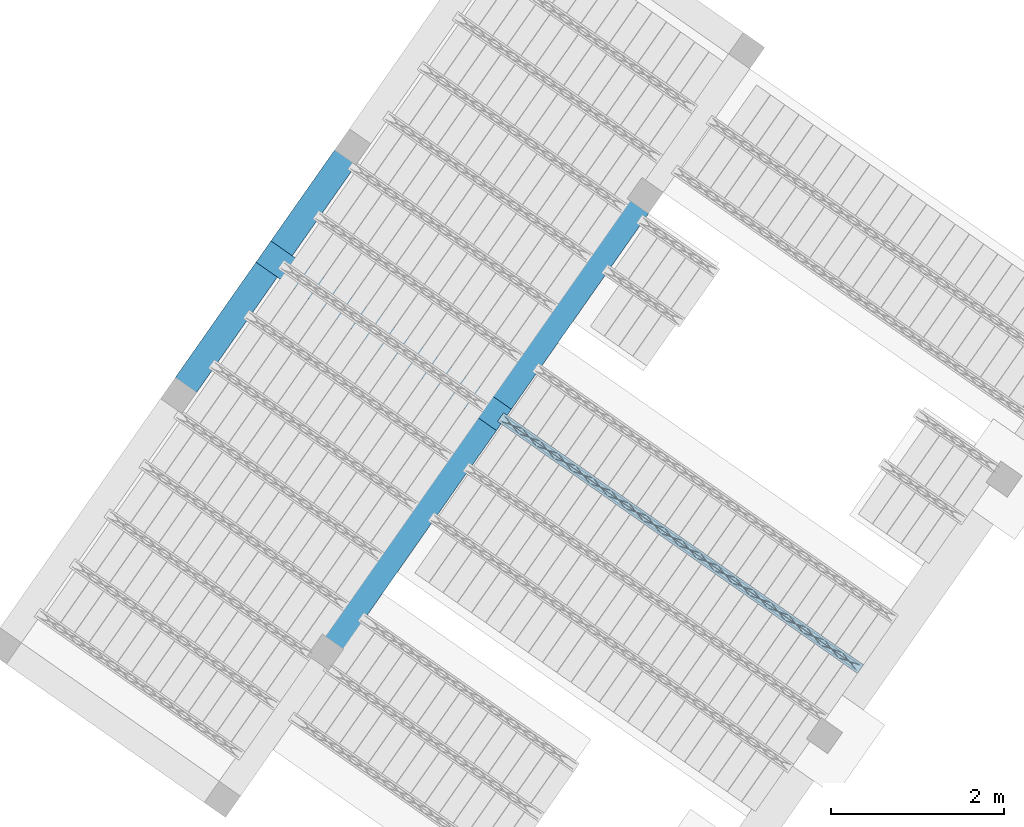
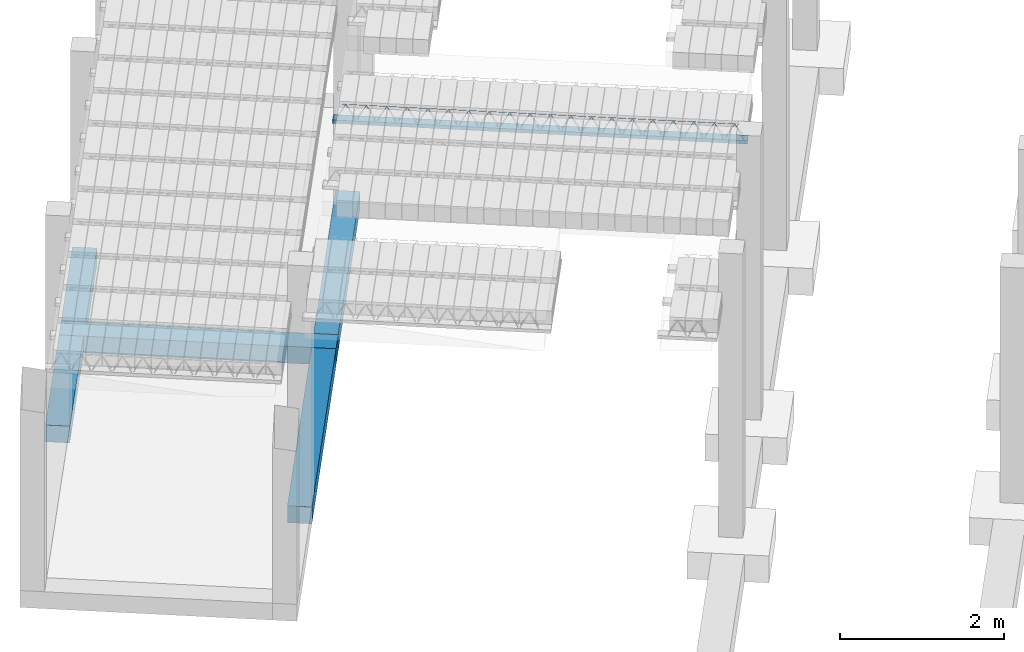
# One storey, part 27 of 80: 4 beams.
"""IFC2X3 building model written with IfcOpenShell, lengths in metres."""

from ifc_helpers import new_model, entity, si_unit, converted_unit, derived_unit, direction, frame, frame_2d, origin, origin_2d_with_axis, place, context, subcontext, project, spatial, rectangle, circle, extrude, material, type_object, element, save


model = new_model("IFC2X3")

# Units and contexts
model_context = context("Model", 3, precision=1e-05, world=origin(), true_north=direction((6.123031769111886e-17, 1.0)))
body_context = subcontext(model_context, "Body", "Model", "MODEL_VIEW")
ifc_project = project(units=[si_unit("LENGTHUNIT", "METRE"), si_unit("AREAUNIT", "SQUARE_METRE"), si_unit("VOLUMEUNIT", "CUBIC_METRE"), converted_unit("PLANEANGLEUNIT", "DEGREE", entity("IfcPlaneAngleMeasure", 0.017453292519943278), si_unit("PLANEANGLEUNIT", "RADIAN"), dimensions=[0, 0, 0, 0, 0, 0, 0]), si_unit("MASSUNIT", "GRAM", prefix="KILO"), derived_unit("MASSDENSITYUNIT", [(si_unit("MASSUNIT", "GRAM", prefix="KILO"), 1), (si_unit("LENGTHUNIT", "METRE"), -3)]), derived_unit("IONCONCENTRATIONUNIT", [(si_unit("MASSUNIT", "GRAM", prefix="KILO"), 1), (si_unit("LENGTHUNIT", "METRE"), -3)]), derived_unit("MOMENTOFINERTIAUNIT", [(si_unit("LENGTHUNIT", "METRE"), 4)]), si_unit("TIMEUNIT", "SECOND"), si_unit("FREQUENCYUNIT", "HERTZ"), si_unit("THERMODYNAMICTEMPERATUREUNIT", "DEGREE_CELSIUS"), derived_unit("THERMALTRANSMITTANCEUNIT", [(si_unit("MASSUNIT", "GRAM", prefix="KILO"), 1), (si_unit("THERMODYNAMICTEMPERATUREUNIT", "KELVIN"), -1), (si_unit("TIMEUNIT", "SECOND"), -3)]), derived_unit("THERMALCONDUCTANCEUNIT", [(si_unit("MASSUNIT", "GRAM", prefix="KILO"), 1), (si_unit("THERMODYNAMICTEMPERATUREUNIT", "KELVIN"), -1), (si_unit("TIMEUNIT", "SECOND"), -3), (si_unit("LENGTHUNIT", "METRE"), 1)]), derived_unit("VOLUMETRICFLOWRATEUNIT", [(si_unit("LENGTHUNIT", "METRE", prefix="DECI"), 3), (si_unit("TIMEUNIT", "SECOND"), -1)]), derived_unit("MASSFLOWRATEUNIT", [(si_unit("MASSUNIT", "GRAM", prefix="KILO"), 1), (si_unit("TIMEUNIT", "SECOND"), -1)]), derived_unit("ROTATIONALFREQUENCYUNIT", [(si_unit("TIMEUNIT", "SECOND"), -1)]), si_unit("ELECTRICCURRENTUNIT", "AMPERE"), si_unit("ELECTRICVOLTAGEUNIT", "VOLT"), si_unit("POWERUNIT", "WATT"), si_unit("FORCEUNIT", "NEWTON", prefix="KILO"), si_unit("ILLUMINANCEUNIT", "LUX"), si_unit("LUMINOUSFLUXUNIT", "LUMEN"), si_unit("LUMINOUSINTENSITYUNIT", "CANDELA"), si_unit("ENERGYUNIT", "JOULE"), derived_unit("USERDEFINED", [(si_unit("MASSUNIT", "GRAM", prefix="KILO"), -1), (si_unit("LENGTHUNIT", "METRE"), -2), (si_unit("TIMEUNIT", "SECOND"), 3), (si_unit("LUMINOUSFLUXUNIT", "LUMEN"), 1)]), derived_unit("USERDEFINED", [(si_unit("MASSUNIT", "GRAM", prefix="KILO"), 1), (si_unit("TIMEUNIT", "SECOND"), -3), (si_unit("LENGTHUNIT", "METRE"), 3), (si_unit("ELECTRICCURRENTUNIT", "AMPERE"), -2)]), derived_unit("SOUNDPOWERUNIT", [(si_unit("MASSUNIT", "GRAM", prefix="KILO"), 1), (si_unit("TIMEUNIT", "SECOND"), -3), (si_unit("LENGTHUNIT", "METRE"), 2)]), derived_unit("SOUNDPRESSUREUNIT", [(si_unit("MASSUNIT", "GRAM", prefix="KILO"), 1), (si_unit("LENGTHUNIT", "METRE"), -1), (si_unit("TIMEUNIT", "SECOND"), -2)]), derived_unit("LINEARVELOCITYUNIT", [(si_unit("LENGTHUNIT", "METRE"), 1), (si_unit("TIMEUNIT", "SECOND"), -1)]), si_unit("PRESSUREUNIT", "PASCAL"), derived_unit("USERDEFINED", [(si_unit("MASSUNIT", "GRAM", prefix="KILO"), 1), (si_unit("LENGTHUNIT", "METRE"), -2), (si_unit("TIMEUNIT", "SECOND"), -2)]), derived_unit("LINEARFORCEUNIT", [(si_unit("MASSUNIT", "GRAM", prefix="KILO"), 1), (si_unit("TIMEUNIT", "SECOND"), -2)]), derived_unit("PLANARFORCEUNIT", [(si_unit("MASSUNIT", "GRAM", prefix="KILO"), 1), (si_unit("LENGTHUNIT", "METRE"), -1), (si_unit("TIMEUNIT", "SECOND"), -2)]), derived_unit("SPECIFICHEATCAPACITYUNIT", [(si_unit("THERMODYNAMICTEMPERATUREUNIT", "KELVIN"), -1), (si_unit("LENGTHUNIT", "METRE"), 2), (si_unit("TIMEUNIT", "SECOND"), -2)]), derived_unit("HEATFLUXDENSITYUNIT", [(si_unit("MASSUNIT", "GRAM", prefix="KILO"), 1), (si_unit("TIMEUNIT", "SECOND"), -3)]), derived_unit("HEATINGVALUEUNIT", [(si_unit("LENGTHUNIT", "METRE"), 2), (si_unit("TIMEUNIT", "SECOND"), -2)]), derived_unit("VAPORPERMEABILITYUNIT", [(si_unit("LENGTHUNIT", "METRE"), -1), (si_unit("TIMEUNIT", "SECOND"), 1)]), derived_unit("DYNAMICVISCOSITYUNIT", [(si_unit("MASSUNIT", "GRAM", prefix="KILO"), 1), (si_unit("TIMEUNIT", "SECOND"), -1), (si_unit("LENGTHUNIT", "METRE"), -1)]), derived_unit("THERMALEXPANSIONCOEFFICIENTUNIT", [(si_unit("THERMODYNAMICTEMPERATUREUNIT", "KELVIN"), -1)]), derived_unit("MODULUSOFELASTICITYUNIT", [(si_unit("MASSUNIT", "GRAM", prefix="KILO"), 1), (si_unit("LENGTHUNIT", "METRE"), -1), (si_unit("TIMEUNIT", "SECOND"), -2)]), derived_unit("ISOTHERMALMOISTURECAPACITYUNIT", [(si_unit("MASSUNIT", "GRAM", prefix="KILO"), -1), (si_unit("LENGTHUNIT", "METRE"), 3)]), derived_unit("MOISTUREDIFFUSIVITYUNIT", [(si_unit("TIMEUNIT", "SECOND"), -1), (si_unit("LENGTHUNIT", "METRE"), 2)]), derived_unit("MASSPERLENGTHUNIT", [(si_unit("MASSUNIT", "GRAM", prefix="KILO"), 1), (si_unit("LENGTHUNIT", "METRE"), -1)]), derived_unit("THERMALRESISTANCEUNIT", [(si_unit("MASSUNIT", "GRAM", prefix="KILO"), -1), (si_unit("TIMEUNIT", "SECOND"), 3), (si_unit("THERMODYNAMICTEMPERATUREUNIT", "KELVIN"), 1)]), derived_unit("ACCELERATIONUNIT", [(si_unit("LENGTHUNIT", "METRE"), 1), (si_unit("TIMEUNIT", "SECOND"), -2)]), derived_unit("ANGULARVELOCITYUNIT", [(si_unit("TIMEUNIT", "SECOND"), -1), (si_unit("PLANEANGLEUNIT", "RADIAN"), 1)]), derived_unit("LINEARSTIFFNESSUNIT", [(si_unit("MASSUNIT", "GRAM", prefix="KILO"), 1), (si_unit("TIMEUNIT", "SECOND"), -2)]), derived_unit("WARPINGCONSTANTUNIT", [(si_unit("LENGTHUNIT", "METRE"), 6)]), derived_unit("LINEARMOMENTUNIT", [(si_unit("MASSUNIT", "GRAM", prefix="KILO"), 1), (si_unit("LENGTHUNIT", "METRE"), 1), (si_unit("TIMEUNIT", "SECOND"), -2)]), derived_unit("TORQUEUNIT", [(si_unit("MASSUNIT", "GRAM", prefix="KILO"), 1), (si_unit("LENGTHUNIT", "METRE"), 2), (si_unit("TIMEUNIT", "SECOND"), -2)])], contexts=[model_context])

# Site, building, storey
site_placement = place(None, origin())
site = spatial("IfcSite", under=ifc_project, at=site_placement, Name="Default", CompositionType="ELEMENT")
building_placement = place(site_placement, origin())
building = spatial("IfcBuilding", under=site, at=building_placement, CompositionType="ELEMENT")
storey_placement = place(building_placement, frame((0.0, 0.0, 95.94)))
storey = spatial("IfcBuildingStorey", under=building, at=storey_placement, Name="PB", CompositionType="ELEMENT", Elevation=95.94)

# Beams
beam_type = type_object("IfcBeamType", Name="Vigueta 3 (Paño 6) (Mf = 33.48)", PredefinedType="JOIST")
beam_1_placement = place(storey_placement, origin())
element("IfcBeam", 1, at=beam_1_placement, inside=storey, type_object=beam_type, Name="Vigueta 3 (Paño 6) (Mf = 33.48)", ObjectType="Mf = 33.48", context=body_context, shape_type="SweptSolid", body=[
    extrude(rectangle(XDim=5.065554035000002, YDim=0.11999999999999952, at=frame_2d((-2.220446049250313e-16, -6.106226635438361e-16), x_axis=(1.0, 0.0))), frame((6.237630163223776, 3.518912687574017, 3.2799999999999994), z_axis=(0.0, 0.0, 1.0), x_axis=(0.8191520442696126, -0.5735764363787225, 0.0)), (0.0, 0.0, 1.0), 0.04999999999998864),
    extrude(circle(Radius=0.0025, at=origin_2d_with_axis()), frame((4.161911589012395, 4.928398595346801, 3.3049999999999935), z_axis=(0.8191520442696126, -0.5735764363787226, 0.0), x_axis=(-0.5735764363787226, -0.8191520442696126, 0.0)), (0.0, 0.0, 1.0), 5.017554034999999),
    extrude(circle(Radius=0.0025, at=origin_2d_with_axis()), frame((8.224073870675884, 2.1279898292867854, 3.5299999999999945), z_axis=(-0.8191520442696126, 0.5735764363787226, 0.0), x_axis=(-0.5735764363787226, -0.8191520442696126, 0.0)), (0.0, 0.0, 1.0), 4.849999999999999),
    extrude(circle(Radius=0.0025, at=origin_2d_with_axis()), frame((8.264861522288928, 2.0554821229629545, 3.3049999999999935), z_axis=(-0.3145304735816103, 0.389334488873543, 0.8657304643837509), x_axis=(-0.7778747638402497, -0.6284193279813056, 0.0)), (0.0, 0.0, 1.0), 0.2598961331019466),
    extrude(circle(Radius=0.0025, at=origin_2d_with_axis()), frame((8.060073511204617, 2.198876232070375, 3.3049999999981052), z_axis=(0.47343050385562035, -0.1624017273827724, 0.8657304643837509), x_axis=(-0.3244721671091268, -0.9458952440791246, 0.0)), (0.0, 0.0, 1.0), 0.25989613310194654),
    extrude(circle(Radius=0.0025, at=origin_2d_with_axis()), frame((8.060073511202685, 2.1988762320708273, 3.3049999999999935), z_axis=(-0.3145304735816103, 0.389334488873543, 0.8657304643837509), x_axis=(-0.7778747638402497, -0.6284193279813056, 0.0)), (0.0, 0.0, 1.0), 0.2598961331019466),
    extrude(circle(Radius=0.0025, at=origin_2d_with_axis()), frame((7.855285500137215, 2.342270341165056, 3.3049999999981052), z_axis=(0.47343050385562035, -0.1624017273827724, 0.8657304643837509), x_axis=(-0.3244721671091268, -0.9458952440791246, 0.0)), (0.0, 0.0, 1.0), 0.25989613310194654),
    extrude(circle(Radius=0.0025, at=origin_2d_with_axis()), frame((7.855285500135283, 2.342270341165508, 3.3049999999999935), z_axis=(-0.3145304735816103, 0.389334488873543, 0.8657304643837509), x_axis=(-0.7778747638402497, -0.6284193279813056, 0.0)), (0.0, 0.0, 1.0), 0.2598961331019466),
    extrude(circle(Radius=0.0025, at=origin_2d_with_axis()), frame((7.650497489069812, 2.485664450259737, 3.3049999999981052), z_axis=(0.47343050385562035, -0.1624017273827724, 0.8657304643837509), x_axis=(-0.3244721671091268, -0.9458952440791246, 0.0)), (0.0, 0.0, 1.0), 0.25989613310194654),
    extrude(circle(Radius=0.0025, at=origin_2d_with_axis()), frame((7.650497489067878, 2.4856644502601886, 3.3049999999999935), z_axis=(-0.3145304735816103, 0.389334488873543, 0.8657304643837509), x_axis=(-0.7778747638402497, -0.6284193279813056, 0.0)), (0.0, 0.0, 1.0), 0.2598961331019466),
    extrude(circle(Radius=0.0025, at=origin_2d_with_axis()), frame((7.445709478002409, 2.6290585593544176, 3.3049999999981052), z_axis=(0.47343050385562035, -0.1624017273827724, 0.8657304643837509), x_axis=(-0.3244721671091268, -0.9458952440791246, 0.0)), (0.0, 0.0, 1.0), 0.25989613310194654),
    extrude(circle(Radius=0.0025, at=origin_2d_with_axis()), frame((7.445709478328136, 2.629058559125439, 3.3049999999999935), z_axis=(-0.3145304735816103, 0.389334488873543, 0.8657304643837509), x_axis=(-0.7778747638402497, -0.6284193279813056, 0.0)), (0.0, 0.0, 1.0), 0.2598961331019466),
    extrude(circle(Radius=0.0025, at=origin_2d_with_axis()), frame((7.240921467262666, 2.7724526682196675, 3.3049999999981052), z_axis=(0.47343050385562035, -0.1624017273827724, 0.8657304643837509), x_axis=(-0.3244721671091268, -0.9458952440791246, 0.0)), (0.0, 0.0, 1.0), 0.25989613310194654),
    extrude(circle(Radius=0.0025, at=origin_2d_with_axis()), frame((7.240921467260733, 2.772452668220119, 3.3049999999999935), z_axis=(-0.3145304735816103, 0.389334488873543, 0.8657304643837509), x_axis=(-0.7778747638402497, -0.6284193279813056, 0.0)), (0.0, 0.0, 1.0), 0.2598961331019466),
    extrude(circle(Radius=0.0025, at=origin_2d_with_axis()), frame((7.036133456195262, 2.915846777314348, 3.3049999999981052), z_axis=(0.47343050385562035, -0.1624017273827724, 0.8657304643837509), x_axis=(-0.3244721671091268, -0.9458952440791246, 0.0)), (0.0, 0.0, 1.0), 0.25989613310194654),
    extrude(circle(Radius=0.0025, at=origin_2d_with_axis()), frame((7.036133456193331, 2.9158467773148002, 3.3049999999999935), z_axis=(-0.3145304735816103, 0.389334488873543, 0.8657304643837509), x_axis=(-0.7778747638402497, -0.6284193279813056, 0.0)), (0.0, 0.0, 1.0), 0.2598961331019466),
    extrude(circle(Radius=0.0025, at=origin_2d_with_axis()), frame((6.83134544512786, 3.059240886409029, 3.3049999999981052), z_axis=(0.47343050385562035, -0.1624017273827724, 0.8657304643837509), x_axis=(-0.3244721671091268, -0.9458952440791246, 0.0)), (0.0, 0.0, 1.0), 0.25989613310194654),
    extrude(circle(Radius=0.0025, at=origin_2d_with_axis()), frame((6.831345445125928, 3.059240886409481, 3.3049999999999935), z_axis=(-0.3145304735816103, 0.389334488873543, 0.8657304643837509), x_axis=(-0.7778747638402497, -0.6284193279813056, 0.0)), (0.0, 0.0, 1.0), 0.2598961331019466),
    extrude(circle(Radius=0.0025, at=origin_2d_with_axis()), frame((6.626557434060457, 3.2026349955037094, 3.3049999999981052), z_axis=(0.47343050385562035, -0.1624017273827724, 0.8657304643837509), x_axis=(-0.3244721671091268, -0.9458952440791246, 0.0)), (0.0, 0.0, 1.0), 0.25989613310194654),
    extrude(circle(Radius=0.0025, at=origin_2d_with_axis()), frame((6.626557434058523, 3.202634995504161, 3.3049999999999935), z_axis=(-0.3145304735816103, 0.389334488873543, 0.8657304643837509), x_axis=(-0.7778747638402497, -0.6284193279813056, 0.0)), (0.0, 0.0, 1.0), 0.2598961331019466),
    extrude(circle(Radius=0.0025, at=origin_2d_with_axis()), frame((6.421769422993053, 3.34602910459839, 3.3049999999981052), z_axis=(0.47343050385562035, -0.1624017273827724, 0.8657304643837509), x_axis=(-0.3244721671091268, -0.9458952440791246, 0.0)), (0.0, 0.0, 1.0), 0.25989613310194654),
    extrude(circle(Radius=0.0025, at=origin_2d_with_axis()), frame((6.421769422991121, 3.3460291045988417, 3.3049999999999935), z_axis=(-0.3145304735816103, 0.389334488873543, 0.8657304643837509), x_axis=(-0.7778747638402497, -0.6284193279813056, 0.0)), (0.0, 0.0, 1.0), 0.2598961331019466),
    extrude(circle(Radius=0.0025, at=origin_2d_with_axis()), frame((6.216981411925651, 3.4894232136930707, 3.3049999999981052), z_axis=(0.47343050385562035, -0.1624017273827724, 0.8657304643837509), x_axis=(-0.3244721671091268, -0.9458952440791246, 0.0)), (0.0, 0.0, 1.0), 0.25989613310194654),
    extrude(circle(Radius=0.0025, at=origin_2d_with_axis()), frame((6.216981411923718, 3.4894232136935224, 3.3049999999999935), z_axis=(-0.3145304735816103, 0.389334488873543, 0.8657304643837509), x_axis=(-0.7778747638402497, -0.6284193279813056, 0.0)), (0.0, 0.0, 1.0), 0.2598961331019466),
    extrude(circle(Radius=0.0025, at=origin_2d_with_axis()), frame((6.012193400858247, 3.632817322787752, 3.3049999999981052), z_axis=(0.47343050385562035, -0.1624017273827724, 0.8657304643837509), x_axis=(-0.3244721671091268, -0.9458952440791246, 0.0)), (0.0, 0.0, 1.0), 0.25989613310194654),
    extrude(circle(Radius=0.0025, at=origin_2d_with_axis()), frame((6.012193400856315, 3.632817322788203, 3.3049999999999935), z_axis=(-0.3145304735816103, 0.389334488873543, 0.8657304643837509), x_axis=(-0.7778747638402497, -0.6284193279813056, 0.0)), (0.0, 0.0, 1.0), 0.2598961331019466),
    extrude(circle(Radius=0.0025, at=origin_2d_with_axis()), frame((5.807405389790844, 3.776211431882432, 3.3049999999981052), z_axis=(0.47343050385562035, -0.1624017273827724, 0.8657304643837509), x_axis=(-0.3244721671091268, -0.9458952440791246, 0.0)), (0.0, 0.0, 1.0), 0.25989613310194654),
    extrude(circle(Radius=0.0025, at=origin_2d_with_axis()), frame((5.807405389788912, 3.7762114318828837, 3.3049999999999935), z_axis=(-0.3145304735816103, 0.389334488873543, 0.8657304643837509), x_axis=(-0.7778747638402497, -0.6284193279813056, 0.0)), (0.0, 0.0, 1.0), 0.2598961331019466),
    extrude(circle(Radius=0.0025, at=origin_2d_with_axis()), frame((5.6026173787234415, 3.9196055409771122, 3.3049999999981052), z_axis=(0.47343050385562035, -0.1624017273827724, 0.8657304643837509), x_axis=(-0.3244721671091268, -0.9458952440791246, 0.0)), (0.0, 0.0, 1.0), 0.25989613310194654),
    extrude(circle(Radius=0.0025, at=origin_2d_with_axis()), frame((5.602617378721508, 3.919605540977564, 3.3049999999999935), z_axis=(-0.3145304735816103, 0.389334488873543, 0.8657304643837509), x_axis=(-0.7778747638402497, -0.6284193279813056, 0.0)), (0.0, 0.0, 1.0), 0.2598961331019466),
    extrude(circle(Radius=0.0025, at=origin_2d_with_axis()), frame((5.397829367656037, 4.062999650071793, 3.3049999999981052), z_axis=(0.47343050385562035, -0.1624017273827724, 0.8657304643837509), x_axis=(-0.3244721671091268, -0.9458952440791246, 0.0)), (0.0, 0.0, 1.0), 0.25989613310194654),
    extrude(circle(Radius=0.0025, at=origin_2d_with_axis()), frame((5.397829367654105, 4.062999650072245, 3.3049999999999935), z_axis=(-0.3145304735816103, 0.389334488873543, 0.8657304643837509), x_axis=(-0.7778747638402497, -0.6284193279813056, 0.0)), (0.0, 0.0, 1.0), 0.2598961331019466),
    extrude(circle(Radius=0.0025, at=origin_2d_with_axis()), frame((5.193041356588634, 4.206393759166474, 3.3049999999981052), z_axis=(0.47343050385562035, -0.1624017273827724, 0.8657304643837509), x_axis=(-0.3244721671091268, -0.9458952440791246, 0.0)), (0.0, 0.0, 1.0), 0.25989613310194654),
    extrude(circle(Radius=0.0025, at=origin_2d_with_axis()), frame((5.193041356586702, 4.206393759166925, 3.3049999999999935), z_axis=(-0.3145304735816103, 0.389334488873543, 0.8657304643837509), x_axis=(-0.7778747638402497, -0.6284193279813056, 0.0)), (0.0, 0.0, 1.0), 0.2598961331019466),
    extrude(circle(Radius=0.0025, at=origin_2d_with_axis()), frame((4.9882533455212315, 4.349787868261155, 3.3049999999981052), z_axis=(0.47343050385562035, -0.1624017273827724, 0.8657304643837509), x_axis=(-0.3244721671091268, -0.9458952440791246, 0.0)), (0.0, 0.0, 1.0), 0.25989613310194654),
    extrude(circle(Radius=0.0025, at=origin_2d_with_axis()), frame((4.988253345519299, 4.349787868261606, 3.3049999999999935), z_axis=(-0.3145304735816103, 0.389334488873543, 0.8657304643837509), x_axis=(-0.7778747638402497, -0.6284193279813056, 0.0)), (0.0, 0.0, 1.0), 0.2598961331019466),
    extrude(circle(Radius=0.0025, at=origin_2d_with_axis()), frame((4.783465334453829, 4.493181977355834, 3.3049999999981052), z_axis=(0.47343050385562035, -0.1624017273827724, 0.8657304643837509), x_axis=(-0.3244721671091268, -0.9458952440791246, 0.0)), (0.0, 0.0, 1.0), 0.25989613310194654),
    extrude(circle(Radius=0.0025, at=origin_2d_with_axis()), frame((4.783465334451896, 4.493181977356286, 3.3049999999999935), z_axis=(-0.3145304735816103, 0.389334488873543, 0.8657304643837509), x_axis=(-0.7778747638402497, -0.6284193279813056, 0.0)), (0.0, 0.0, 1.0), 0.2598961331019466),
    extrude(circle(Radius=0.0025, at=origin_2d_with_axis()), frame((4.578677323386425, 4.636576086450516, 3.3049999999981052), z_axis=(0.47343050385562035, -0.1624017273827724, 0.8657304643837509), x_axis=(-0.3244721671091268, -0.9458952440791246, 0.0)), (0.0, 0.0, 1.0), 0.25989613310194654),
    extrude(circle(Radius=0.0025, at=origin_2d_with_axis()), frame((4.578677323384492, 4.636576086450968, 3.3049999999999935), z_axis=(-0.3145304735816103, 0.389334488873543, 0.8657304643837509), x_axis=(-0.7778747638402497, -0.6284193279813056, 0.0)), (0.0, 0.0, 1.0), 0.2598961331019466),
    extrude(circle(Radius=0.0025, at=origin_2d_with_axis()), frame((4.373889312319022, 4.7799701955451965, 3.3049999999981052), z_axis=(0.47343050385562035, -0.1624017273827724, 0.8657304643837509), x_axis=(-0.3244721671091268, -0.9458952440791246, 0.0)), (0.0, 0.0, 1.0), 0.25989613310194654),
    extrude(circle(Radius=0.0025, at=origin_2d_with_axis()), frame((4.37388931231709, 4.779970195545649, 3.3049999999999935), z_axis=(-0.3145304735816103, 0.389334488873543, 0.8657304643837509), x_axis=(-0.7778747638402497, -0.6284193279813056, 0.0)), (0.0, 0.0, 1.0), 0.2598961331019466),
    extrude(circle(Radius=0.0025, at=origin_2d_with_axis()), frame((4.169101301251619, 4.923364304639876, 3.3049999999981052), z_axis=(0.47343050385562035, -0.1624017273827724, 0.8657304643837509), x_axis=(-0.3244721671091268, -0.9458952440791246, 0.0)), (0.0, 0.0, 1.0), 0.25989613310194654),
    extrude(circle(Radius=0.0025, at=origin_2d_with_axis()), frame((8.313348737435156, 2.109426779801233, 3.3049999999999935), z_axis=(-0.8191520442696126, 0.5735764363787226, 0.0), x_axis=(-0.5735764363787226, -0.8191520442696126, 0.0)), (0.0, 0.0, 1.0), 5.017554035),
    extrude(circle(Radius=0.0025, at=origin_2d_with_axis()), frame((8.306159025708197, 2.1144610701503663, 3.3049999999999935), z_axis=(-0.47343050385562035, 0.1624017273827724, 0.8657304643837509), x_axis=(-0.3244721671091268, -0.9458952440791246, 0.0)), (0.0, 0.0, 1.0), 0.25989613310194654),
    extrude(circle(Radius=0.0025, at=origin_2d_with_axis()), frame((8.101371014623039, 2.2578551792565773, 3.3049999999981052), z_axis=(0.3145304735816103, -0.389334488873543, 0.8657304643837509), x_axis=(-0.7778747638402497, -0.6284193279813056, 0.0)), (0.0, 0.0, 1.0), 0.2598961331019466),
    extrude(circle(Radius=0.0025, at=origin_2d_with_axis()), frame((8.101371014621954, 2.2578551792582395, 3.3049999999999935), z_axis=(-0.47343050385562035, 0.1624017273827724, 0.8657304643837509), x_axis=(-0.3244721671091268, -0.9458952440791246, 0.0)), (0.0, 0.0, 1.0), 0.25989613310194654),
    extrude(circle(Radius=0.0025, at=origin_2d_with_axis()), frame((7.8965830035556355, 2.4012492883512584, 3.3049999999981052), z_axis=(0.3145304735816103, -0.389334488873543, 0.8657304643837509), x_axis=(-0.7778747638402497, -0.6284193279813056, 0.0)), (0.0, 0.0, 1.0), 0.2598961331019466),
    extrude(circle(Radius=0.0025, at=origin_2d_with_axis()), frame((7.89658300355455, 2.40124928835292, 3.3049999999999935), z_axis=(-0.47343050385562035, 0.1624017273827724, 0.8657304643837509), x_axis=(-0.3244721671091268, -0.9458952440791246, 0.0)), (0.0, 0.0, 1.0), 0.25989613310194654),
    extrude(circle(Radius=0.0025, at=origin_2d_with_axis()), frame((7.691794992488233, 2.5446433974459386, 3.3049999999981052), z_axis=(0.3145304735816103, -0.389334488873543, 0.8657304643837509), x_axis=(-0.7778747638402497, -0.6284193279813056, 0.0)), (0.0, 0.0, 1.0), 0.2598961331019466),
    extrude(circle(Radius=0.0025, at=origin_2d_with_axis()), frame((7.6917949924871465, 2.544643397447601, 3.3049999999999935), z_axis=(-0.47343050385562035, 0.1624017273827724, 0.8657304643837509), x_axis=(-0.3244721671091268, -0.9458952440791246, 0.0)), (0.0, 0.0, 1.0), 0.25989613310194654),
    extrude(circle(Radius=0.0025, at=origin_2d_with_axis()), frame((7.48700698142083, 2.6880375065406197, 3.3049999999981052), z_axis=(0.3145304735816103, -0.389334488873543, 0.8657304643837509), x_axis=(-0.7778747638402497, -0.6284193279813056, 0.0)), (0.0, 0.0, 1.0), 0.2598961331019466),
    extrude(circle(Radius=0.0025, at=origin_2d_with_axis()), frame((7.487006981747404, 2.6880375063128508, 3.3049999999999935), z_axis=(-0.47343050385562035, 0.1624017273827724, 0.8657304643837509), x_axis=(-0.3244721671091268, -0.9458952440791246, 0.0)), (0.0, 0.0, 1.0), 0.25989613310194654),
    extrude(circle(Radius=0.0025, at=origin_2d_with_axis()), frame((7.282218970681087, 2.8314316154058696, 3.3049999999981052), z_axis=(0.3145304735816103, -0.389334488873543, 0.8657304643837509), x_axis=(-0.7778747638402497, -0.6284193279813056, 0.0)), (0.0, 0.0, 1.0), 0.2598961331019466),
    extrude(circle(Radius=0.0025, at=origin_2d_with_axis()), frame((7.282218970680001, 2.831431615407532, 3.3049999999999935), z_axis=(-0.47343050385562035, 0.1624017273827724, 0.8657304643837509), x_axis=(-0.3244721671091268, -0.9458952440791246, 0.0)), (0.0, 0.0, 1.0), 0.25989613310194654),
    extrude(circle(Radius=0.0025, at=origin_2d_with_axis()), frame((7.077430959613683, 2.97482572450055, 3.3049999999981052), z_axis=(0.3145304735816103, -0.389334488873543, 0.8657304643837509), x_axis=(-0.7778747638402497, -0.6284193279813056, 0.0)), (0.0, 0.0, 1.0), 0.2598961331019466),
    extrude(circle(Radius=0.0025, at=origin_2d_with_axis()), frame((7.077430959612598, 2.974825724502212, 3.3049999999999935), z_axis=(-0.47343050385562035, 0.1624017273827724, 0.8657304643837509), x_axis=(-0.3244721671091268, -0.9458952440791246, 0.0)), (0.0, 0.0, 1.0), 0.25989613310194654),
    extrude(circle(Radius=0.0025, at=origin_2d_with_axis()), frame((6.8726429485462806, 3.1182198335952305, 3.3049999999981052), z_axis=(0.3145304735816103, -0.389334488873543, 0.8657304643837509), x_axis=(-0.7778747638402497, -0.6284193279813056, 0.0)), (0.0, 0.0, 1.0), 0.2598961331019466),
    extrude(circle(Radius=0.0025, at=origin_2d_with_axis()), frame((6.872642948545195, 3.1182198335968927, 3.3049999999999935), z_axis=(-0.47343050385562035, 0.1624017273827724, 0.8657304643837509), x_axis=(-0.3244721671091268, -0.9458952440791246, 0.0)), (0.0, 0.0, 1.0), 0.25989613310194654),
    extrude(circle(Radius=0.0025, at=origin_2d_with_axis()), frame((6.667854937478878, 3.2616139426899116, 3.3049999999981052), z_axis=(0.3145304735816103, -0.389334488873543, 0.8657304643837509), x_axis=(-0.7778747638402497, -0.6284193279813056, 0.0)), (0.0, 0.0, 1.0), 0.2598961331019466),
    extrude(circle(Radius=0.0025, at=origin_2d_with_axis()), frame((6.667854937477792, 3.2616139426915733, 3.3049999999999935), z_axis=(-0.47343050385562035, 0.1624017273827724, 0.8657304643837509), x_axis=(-0.3244721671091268, -0.9458952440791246, 0.0)), (0.0, 0.0, 1.0), 0.25989613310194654),
    extrude(circle(Radius=0.0025, at=origin_2d_with_axis()), frame((6.463066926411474, 3.4050080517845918, 3.3049999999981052), z_axis=(0.3145304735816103, -0.389334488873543, 0.8657304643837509), x_axis=(-0.7778747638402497, -0.6284193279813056, 0.0)), (0.0, 0.0, 1.0), 0.2598961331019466),
    extrude(circle(Radius=0.0025, at=origin_2d_with_axis()), frame((6.463066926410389, 3.405008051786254, 3.3049999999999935), z_axis=(-0.47343050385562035, 0.1624017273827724, 0.8657304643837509), x_axis=(-0.3244721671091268, -0.9458952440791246, 0.0)), (0.0, 0.0, 1.0), 0.25989613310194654),
    extrude(circle(Radius=0.0025, at=origin_2d_with_axis()), frame((6.258278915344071, 3.548402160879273, 3.3049999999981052), z_axis=(0.3145304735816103, -0.389334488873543, 0.8657304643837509), x_axis=(-0.7778747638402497, -0.6284193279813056, 0.0)), (0.0, 0.0, 1.0), 0.2598961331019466),
    extrude(circle(Radius=0.0025, at=origin_2d_with_axis()), frame((6.258278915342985, 3.548402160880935, 3.3049999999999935), z_axis=(-0.47343050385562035, 0.1624017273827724, 0.8657304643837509), x_axis=(-0.3244721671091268, -0.9458952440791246, 0.0)), (0.0, 0.0, 1.0), 0.25989613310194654),
    extrude(circle(Radius=0.0025, at=origin_2d_with_axis()), frame((6.053490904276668, 3.6917962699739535, 3.3049999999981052), z_axis=(0.3145304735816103, -0.389334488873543, 0.8657304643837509), x_axis=(-0.7778747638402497, -0.6284193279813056, 0.0)), (0.0, 0.0, 1.0), 0.2598961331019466),
    extrude(circle(Radius=0.0025, at=origin_2d_with_axis()), frame((6.0534909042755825, 3.6917962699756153, 3.3049999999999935), z_axis=(-0.47343050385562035, 0.1624017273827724, 0.8657304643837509), x_axis=(-0.3244721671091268, -0.9458952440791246, 0.0)), (0.0, 0.0, 1.0), 0.25989613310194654),
    extrude(circle(Radius=0.0025, at=origin_2d_with_axis()), frame((5.848702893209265, 3.8351903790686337, 3.3049999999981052), z_axis=(0.3145304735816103, -0.389334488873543, 0.8657304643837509), x_axis=(-0.7778747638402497, -0.6284193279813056, 0.0)), (0.0, 0.0, 1.0), 0.2598961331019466),
    extrude(circle(Radius=0.0025, at=origin_2d_with_axis()), frame((5.84870289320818, 3.8351903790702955, 3.3049999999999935), z_axis=(-0.47343050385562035, 0.1624017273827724, 0.8657304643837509), x_axis=(-0.3244721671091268, -0.9458952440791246, 0.0)), (0.0, 0.0, 1.0), 0.25989613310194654),
    extrude(circle(Radius=0.0025, at=origin_2d_with_axis()), frame((5.643914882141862, 3.9785844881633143, 3.3049999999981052), z_axis=(0.3145304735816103, -0.389334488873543, 0.8657304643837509), x_axis=(-0.7778747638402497, -0.6284193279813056, 0.0)), (0.0, 0.0, 1.0), 0.2598961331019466),
    extrude(circle(Radius=0.0025, at=origin_2d_with_axis()), frame((5.643914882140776, 3.978584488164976, 3.3049999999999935), z_axis=(-0.47343050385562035, 0.1624017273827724, 0.8657304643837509), x_axis=(-0.3244721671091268, -0.9458952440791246, 0.0)), (0.0, 0.0, 1.0), 0.25989613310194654),
    extrude(circle(Radius=0.0025, at=origin_2d_with_axis()), frame((5.439126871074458, 4.121978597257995, 3.3049999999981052), z_axis=(0.3145304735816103, -0.389334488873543, 0.8657304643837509), x_axis=(-0.7778747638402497, -0.6284193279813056, 0.0)), (0.0, 0.0, 1.0), 0.2598961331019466),
    extrude(circle(Radius=0.0025, at=origin_2d_with_axis()), frame((5.439126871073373, 4.121978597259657, 3.3049999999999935), z_axis=(-0.47343050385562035, 0.1624017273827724, 0.8657304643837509), x_axis=(-0.3244721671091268, -0.9458952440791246, 0.0)), (0.0, 0.0, 1.0), 0.25989613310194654),
    extrude(circle(Radius=0.0025, at=origin_2d_with_axis()), frame((5.234338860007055, 4.265372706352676, 3.3049999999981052), z_axis=(0.3145304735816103, -0.389334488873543, 0.8657304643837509), x_axis=(-0.7778747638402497, -0.6284193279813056, 0.0)), (0.0, 0.0, 1.0), 0.2598961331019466),
    extrude(circle(Radius=0.0025, at=origin_2d_with_axis()), frame((5.23433886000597, 4.265372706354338, 3.3049999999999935), z_axis=(-0.47343050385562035, 0.1624017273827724, 0.8657304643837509), x_axis=(-0.3244721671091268, -0.9458952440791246, 0.0)), (0.0, 0.0, 1.0), 0.25989613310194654),
    extrude(circle(Radius=0.0025, at=origin_2d_with_axis()), frame((5.029550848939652, 4.408766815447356, 3.3049999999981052), z_axis=(0.3145304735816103, -0.389334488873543, 0.8657304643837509), x_axis=(-0.7778747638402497, -0.6284193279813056, 0.0)), (0.0, 0.0, 1.0), 0.2598961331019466),
    extrude(circle(Radius=0.0025, at=origin_2d_with_axis()), frame((5.029550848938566, 4.4087668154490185, 3.3049999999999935), z_axis=(-0.47343050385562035, 0.1624017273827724, 0.8657304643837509), x_axis=(-0.3244721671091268, -0.9458952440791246, 0.0)), (0.0, 0.0, 1.0), 0.25989613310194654),
    extrude(circle(Radius=0.0025, at=origin_2d_with_axis()), frame((4.82476283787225, 4.5521609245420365, 3.3049999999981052), z_axis=(0.3145304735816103, -0.389334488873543, 0.8657304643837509), x_axis=(-0.7778747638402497, -0.6284193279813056, 0.0)), (0.0, 0.0, 1.0), 0.2598961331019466),
    extrude(circle(Radius=0.0025, at=origin_2d_with_axis()), frame((4.824762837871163, 4.552160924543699, 3.3049999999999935), z_axis=(-0.47343050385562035, 0.1624017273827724, 0.8657304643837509), x_axis=(-0.3244721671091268, -0.9458952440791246, 0.0)), (0.0, 0.0, 1.0), 0.25989613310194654),
    extrude(circle(Radius=0.0025, at=origin_2d_with_axis()), frame((4.619974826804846, 4.695555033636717, 3.3049999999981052), z_axis=(0.3145304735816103, -0.389334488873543, 0.8657304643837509), x_axis=(-0.7778747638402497, -0.6284193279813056, 0.0)), (0.0, 0.0, 1.0), 0.2598961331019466),
    extrude(circle(Radius=0.0025, at=origin_2d_with_axis()), frame((4.619974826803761, 4.69555503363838, 3.3049999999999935), z_axis=(-0.47343050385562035, 0.1624017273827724, 0.8657304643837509), x_axis=(-0.3244721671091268, -0.9458952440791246, 0.0)), (0.0, 0.0, 1.0), 0.25989613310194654),
    extrude(circle(Radius=0.0025, at=origin_2d_with_axis()), frame((4.415186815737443, 4.838949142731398, 3.3049999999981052), z_axis=(0.3145304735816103, -0.389334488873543, 0.8657304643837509), x_axis=(-0.7778747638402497, -0.6284193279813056, 0.0)), (0.0, 0.0, 1.0), 0.2598961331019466),
    extrude(circle(Radius=0.0025, at=origin_2d_with_axis()), frame((4.415186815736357, 4.838949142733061, 3.3049999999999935), z_axis=(-0.47343050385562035, 0.1624017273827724, 0.8657304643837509), x_axis=(-0.3244721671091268, -0.9458952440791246, 0.0)), (0.0, 0.0, 1.0), 0.25989613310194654),
    extrude(circle(Radius=0.0025, at=origin_2d_with_axis()), frame((4.21039880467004, 4.982343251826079, 3.3049999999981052), z_axis=(0.3145304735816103, -0.389334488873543, 0.8657304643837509), x_axis=(-0.7778747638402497, -0.6284193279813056, 0.0)), (0.0, 0.0, 1.0), 0.2598961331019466),
])
ifc_material = material(Name="Hormigón armado")
beam_2_placement = place(storey_placement, origin())
element("IfcBeam", 2, at=beam_2_placement, inside=storey, material=ifc_material, Name="Viga 3 (30x25)", ObjectType="30x25", context=body_context, shape_type="SweptSolid", body=[
    extrude(rectangle(XDim=0.2500000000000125, YDim=0.2999999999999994, at=frame_2d((0.0, 4.163336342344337e-17), x_axis=(1.0, 0.0))), frame((0.36519983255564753, 5.099891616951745, -0.12500000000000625), z_axis=(0.5735764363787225, 0.8191520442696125, 0.0), x_axis=(0.0, 0.0, 1.0)), (0.0, 0.0, 1.0), 3.7960765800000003),
])
beam_3_placement = place(storey_placement, origin())
element("IfcBeam", 3, at=beam_3_placement, inside=storey, material=ifc_material, Name="Viga 7 (30x25)", ObjectType="30x25", context=body_context, shape_type="SweptSolid", body=[
    extrude(rectangle(XDim=0.2500000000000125, YDim=0.30000000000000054, at=origin_2d_with_axis()), frame((2.0585365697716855, 2.140655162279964, -0.12500000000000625), z_axis=(0.573576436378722, 0.819152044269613, 0.0), x_axis=(0.0, 0.0, 1.0)), (0.0, 0.0, 1.0), 6.724999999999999),
])
beam_4_placement = place(storey_placement, origin())
element("IfcBeam", 4, at=beam_4_placement, inside=storey, material=ifc_material, Name="Viga 9 (30x25)", ObjectType="30x25", context=body_context, shape_type="SweptSolid", body=[
    extrude(rectangle(XDim=0.2500000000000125, YDim=0.2999999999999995, at=frame_2d((0.0, 5.134781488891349e-16), x_axis=(1.0, 0.0))), frame((1.4291860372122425, 6.880938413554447, -0.12500000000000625), z_axis=(0.8191520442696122, -0.5735764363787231, 0.0), x_axis=(0.0, 0.0, 1.0)), (0.0, 0.0, 1.0), 3.3844485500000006),
])

save(model, "model.ifc")
